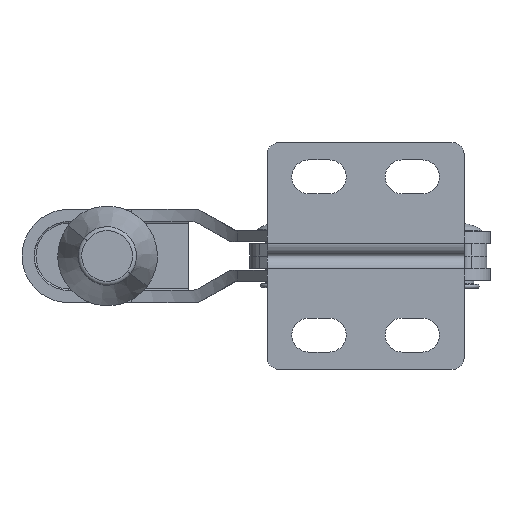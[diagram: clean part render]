
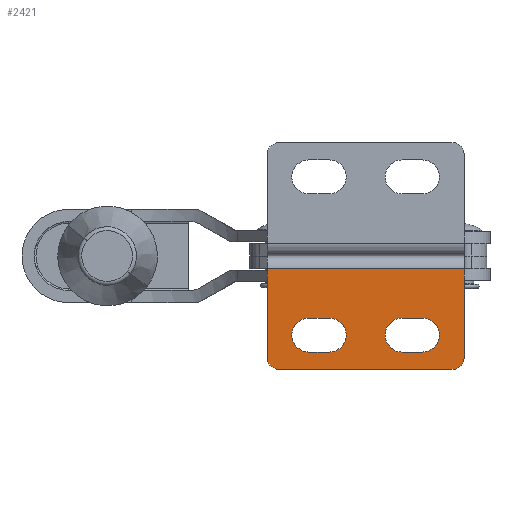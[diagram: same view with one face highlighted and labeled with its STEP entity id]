
A CAD part, front view. The second image highlights one B-rep face of the part: STEP entity #2421.
In plain terms, the highlighted planar face has unit normal (0, -1, 0).
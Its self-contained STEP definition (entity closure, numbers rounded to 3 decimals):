
#99 = EDGE_LOOP ( 'NONE', ( #3901, #5965, #8034, #191 ) ) ;
#141 = EDGE_CURVE ( 'NONE', #2387, #2596, #7135, .T. ) ;
#191 = ORIENTED_EDGE ( 'NONE', *, *, #141, .F. ) ;
#434 = ORIENTED_EDGE ( 'NONE', *, *, #4689, .T. ) ;
#501 = DIRECTION ( 'NONE',  ( 0., -1., 0. ) ) ;
#582 = EDGE_CURVE ( 'NONE', #1627, #2500, #9478, .T. ) ;
#667 = CARTESIAN_POINT ( 'NONE',  ( -28., -1.5, -3. ) ) ;
#821 = CARTESIAN_POINT ( 'NONE',  ( -3.7, -1.5, -1.5 ) ) ;
#956 = VECTOR ( 'NONE', #7115, 1000. ) ;
#1061 = VECTOR ( 'NONE', #5921, 1000. ) ;
#1305 = CARTESIAN_POINT ( 'NONE',  ( -8.85, -1.5, -13.35 ) ) ;
#1499 = LINE ( 'NONE', #1686, #3704 ) ;
#1588 = LINE ( 'NONE', #7741, #7174 ) ;
#1612 = EDGE_CURVE ( 'NONE', #1718, #7367, #2337, .T. ) ;
#1627 = VERTEX_POINT ( 'NONE', #3603 ) ;
#1660 = CIRCLE ( 'NONE', #5317, 2.1 ) ;
#1686 = CARTESIAN_POINT ( 'NONE',  ( -8.85, -1.5, -9.15 ) ) ;
#1695 = ORIENTED_EDGE ( 'NONE', *, *, #9878, .F. ) ;
#1718 = VERTEX_POINT ( 'NONE', #6072 ) ;
#1741 = CARTESIAN_POINT ( 'NONE',  ( -5.2, -1.5, -15.5 ) ) ;
#1797 = CARTESIAN_POINT ( 'NONE',  ( -3.7, -1.5, -3.1 ) ) ;
#1821 = VERTEX_POINT ( 'NONE', #8012 ) ;
#1929 = ORIENTED_EDGE ( 'NONE', *, *, #8884, .F. ) ;
#1978 = LINE ( 'NONE', #5256, #7844 ) ;
#2228 = FACE_BOUND ( 'NONE', #4872, .T. ) ;
#2337 = CIRCLE ( 'NONE', #7729, 2.1 ) ;
#2384 = DIRECTION ( 'NONE',  ( 1., 0., 0. ) ) ;
#2387 = VERTEX_POINT ( 'NONE', #7100 ) ;
#2401 = ORIENTED_EDGE ( 'NONE', *, *, #4818, .F. ) ;
#2402 = CARTESIAN_POINT ( 'NONE',  ( -28., -1.5, -3.1 ) ) ;
#2421 = ADVANCED_FACE ( 'NONE', ( #2228, #4195, #6520 ), #7500, .F. ) ;
#2437 = DIRECTION ( 'NONE',  ( -1., 0., 0. ) ) ;
#2500 = VERTEX_POINT ( 'NONE', #1741 ) ;
#2579 = CARTESIAN_POINT ( 'NONE',  ( -20.35, -1.5, -13.35 ) ) ;
#2596 = VERTEX_POINT ( 'NONE', #3479 ) ;
#2619 = EDGE_CURVE ( 'NONE', #7710, #1627, #2800, .T. ) ;
#2749 = DIRECTION ( 'NONE',  ( 0., 1., 0. ) ) ;
#2800 = LINE ( 'NONE', #821, #1061 ) ;
#2933 = CARTESIAN_POINT ( 'NONE',  ( -22.85, -1.5, -9.15 ) ) ;
#2938 = EDGE_CURVE ( 'NONE', #2596, #3510, #1978, .T. ) ;
#2984 = VECTOR ( 'NONE', #4841, 1000. ) ;
#3014 = AXIS2_PLACEMENT_3D ( 'NONE', #6330, #6362, #8894 ) ;
#3152 = LINE ( 'NONE', #8717, #956 ) ;
#3170 = AXIS2_PLACEMENT_3D ( 'NONE', #4958, #501, #5748 ) ;
#3336 = AXIS2_PLACEMENT_3D ( 'NONE', #667, #6436, #6941 ) ;
#3479 = CARTESIAN_POINT ( 'NONE',  ( -22.85, -1.5, -13.35 ) ) ;
#3508 = CARTESIAN_POINT ( 'NONE',  ( -11.35, -1.5, -11.25 ) ) ;
#3510 = VERTEX_POINT ( 'NONE', #2579 ) ;
#3518 = DIRECTION ( 'NONE',  ( 0., -1., 0. ) ) ;
#3550 = DIRECTION ( 'NONE',  ( 0., 0., 1. ) ) ;
#3603 = CARTESIAN_POINT ( 'NONE',  ( -3.7, -1.5, -14. ) ) ;
#3673 = VECTOR ( 'NONE', #9165, 1000. ) ;
#3676 = DIRECTION ( 'NONE',  ( -1., 0., 0. ) ) ;
#3704 = VECTOR ( 'NONE', #2437, 1000. ) ;
#3901 = ORIENTED_EDGE ( 'NONE', *, *, #6249, .F. ) ;
#4180 = CARTESIAN_POINT ( 'NONE',  ( -8.85, -1.5, -9.15 ) ) ;
#4195 = FACE_BOUND ( 'NONE', #99, .T. ) ;
#4289 = CARTESIAN_POINT ( 'NONE',  ( -20.35, -1.5, -11.25 ) ) ;
#4375 = ORIENTED_EDGE ( 'NONE', *, *, #5022, .T. ) ;
#4689 = EDGE_CURVE ( 'NONE', #7002, #6553, #7305, .T. ) ;
#4720 = DIRECTION ( 'NONE',  ( 1., 0., 0. ) ) ;
#4751 = CARTESIAN_POINT ( 'NONE',  ( -26.5, -1.5, -15.5 ) ) ;
#4818 = EDGE_CURVE ( 'NONE', #7058, #6553, #6085, .T. ) ;
#4841 = DIRECTION ( 'NONE',  ( 0., 0., -1. ) ) ;
#4872 = EDGE_LOOP ( 'NONE', ( #1695, #5718, #9889, #1929 ) ) ;
#4958 = CARTESIAN_POINT ( 'NONE',  ( -8.85, -1.5, -11.25 ) ) ;
#5022 = EDGE_CURVE ( 'NONE', #7058, #2500, #5968, .T. ) ;
#5070 = DIRECTION ( 'NONE',  ( 0., 0., -1. ) ) ;
#5125 = CARTESIAN_POINT ( 'NONE',  ( -11.35, -1.5, -13.35 ) ) ;
#5239 = EDGE_LOOP ( 'NONE', ( #6197, #8293, #434, #2401, #4375, #8537 ) ) ;
#5256 = CARTESIAN_POINT ( 'NONE',  ( -22.85, -1.5, -13.35 ) ) ;
#5317 = AXIS2_PLACEMENT_3D ( 'NONE', #4289, #9767, #5070 ) ;
#5485 = VERTEX_POINT ( 'NONE', #1305 ) ;
#5718 = ORIENTED_EDGE ( 'NONE', *, *, #1612, .F. ) ;
#5748 = DIRECTION ( 'NONE',  ( 0., 0., 1. ) ) ;
#5876 = CIRCLE ( 'NONE', #3170, 2.1 ) ;
#5921 = DIRECTION ( 'NONE',  ( 0., 0., -1. ) ) ;
#5965 = ORIENTED_EDGE ( 'NONE', *, *, #6650, .F. ) ;
#5968 = LINE ( 'NONE', #6012, #3673 ) ;
#6012 = CARTESIAN_POINT ( 'NONE',  ( -28., -1.5, -15.5 ) ) ;
#6072 = CARTESIAN_POINT ( 'NONE',  ( -11.35, -1.5, -9.15 ) ) ;
#6085 = CIRCLE ( 'NONE', #9852, 1.5 ) ;
#6173 = VECTOR ( 'NONE', #3676, 1000. ) ;
#6197 = ORIENTED_EDGE ( 'NONE', *, *, #2619, .F. ) ;
#6249 = EDGE_CURVE ( 'NONE', #1821, #2387, #8264, .T. ) ;
#6330 = CARTESIAN_POINT ( 'NONE',  ( -5.2, -1.5, -14. ) ) ;
#6362 = DIRECTION ( 'NONE',  ( 0., 1., 0. ) ) ;
#6436 = DIRECTION ( 'NONE',  ( 0., 1., 0. ) ) ;
#6520 = FACE_OUTER_BOUND ( 'NONE', #5239, .T. ) ;
#6553 = VERTEX_POINT ( 'NONE', #9629 ) ;
#6650 = EDGE_CURVE ( 'NONE', #3510, #1821, #1660, .T. ) ;
#6941 = DIRECTION ( 'NONE',  ( 0., 0., -1. ) ) ;
#6994 = AXIS2_PLACEMENT_3D ( 'NONE', #8369, #8383, #8415 ) ;
#7002 = VERTEX_POINT ( 'NONE', #2402 ) ;
#7058 = VERTEX_POINT ( 'NONE', #4751 ) ;
#7100 = CARTESIAN_POINT ( 'NONE',  ( -22.85, -1.5, -9.15 ) ) ;
#7115 = DIRECTION ( 'NONE',  ( 1., 0., 0. ) ) ;
#7135 = CIRCLE ( 'NONE', #6994, 2.1 ) ;
#7157 = CARTESIAN_POINT ( 'NONE',  ( -28., -1.5, -3. ) ) ;
#7174 = VECTOR ( 'NONE', #2384, 1000. ) ;
#7187 = VERTEX_POINT ( 'NONE', #4180 ) ;
#7305 = LINE ( 'NONE', #7157, #2984 ) ;
#7335 = CARTESIAN_POINT ( 'NONE',  ( -26.5, -1.5, -14. ) ) ;
#7367 = VERTEX_POINT ( 'NONE', #5125 ) ;
#7500 = PLANE ( 'NONE',  #3336 ) ;
#7710 = VERTEX_POINT ( 'NONE', #1797 ) ;
#7719 = EDGE_CURVE ( 'NONE', #7002, #7710, #3152, .T. ) ;
#7729 = AXIS2_PLACEMENT_3D ( 'NONE', #3508, #3518, #3550 ) ;
#7741 = CARTESIAN_POINT ( 'NONE',  ( -8.85, -1.5, -13.35 ) ) ;
#7844 = VECTOR ( 'NONE', #4720, 1000. ) ;
#8012 = CARTESIAN_POINT ( 'NONE',  ( -20.35, -1.5, -9.15 ) ) ;
#8034 = ORIENTED_EDGE ( 'NONE', *, *, #2938, .F. ) ;
#8121 = DIRECTION ( 'NONE',  ( 0., 0., -1. ) ) ;
#8264 = LINE ( 'NONE', #2933, #6173 ) ;
#8293 = ORIENTED_EDGE ( 'NONE', *, *, #7719, .F. ) ;
#8369 = CARTESIAN_POINT ( 'NONE',  ( -22.85, -1.5, -11.25 ) ) ;
#8383 = DIRECTION ( 'NONE',  ( 0., -1., 0. ) ) ;
#8415 = DIRECTION ( 'NONE',  ( 0., 0., -1. ) ) ;
#8537 = ORIENTED_EDGE ( 'NONE', *, *, #582, .F. ) ;
#8691 = EDGE_CURVE ( 'NONE', #7187, #1718, #1499, .T. ) ;
#8717 = CARTESIAN_POINT ( 'NONE',  ( -28., -1.5, -3.1 ) ) ;
#8884 = EDGE_CURVE ( 'NONE', #5485, #7187, #5876, .T. ) ;
#8894 = DIRECTION ( 'NONE',  ( 0., 0., -1. ) ) ;
#9165 = DIRECTION ( 'NONE',  ( 1., 0., 0. ) ) ;
#9478 = CIRCLE ( 'NONE', #3014, 1.5 ) ;
#9629 = CARTESIAN_POINT ( 'NONE',  ( -28., -1.5, -14. ) ) ;
#9767 = DIRECTION ( 'NONE',  ( 0., -1., 0. ) ) ;
#9852 = AXIS2_PLACEMENT_3D ( 'NONE', #7335, #2749, #8121 ) ;
#9878 = EDGE_CURVE ( 'NONE', #7367, #5485, #1588, .T. ) ;
#9889 = ORIENTED_EDGE ( 'NONE', *, *, #8691, .F. ) ;
